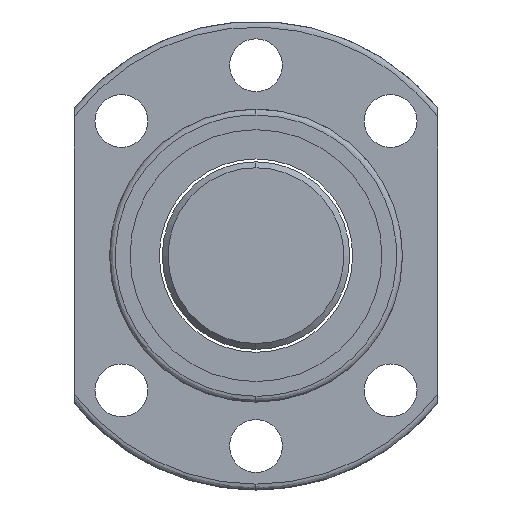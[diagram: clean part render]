
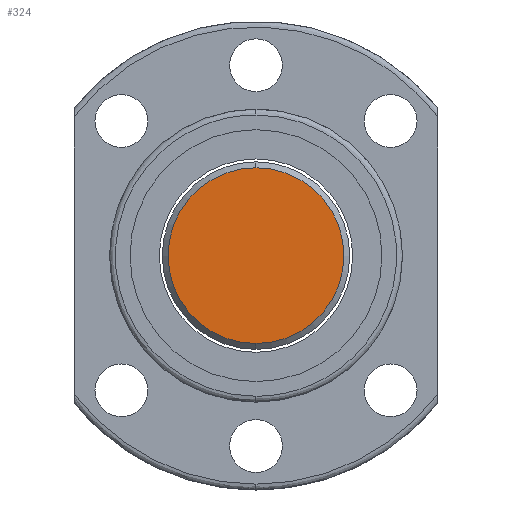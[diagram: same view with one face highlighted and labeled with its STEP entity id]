
A CAD part, left-side view. The second image highlights one B-rep face of the part: STEP entity #324.
In plain terms, the highlighted planar face has unit normal (-1, 0, 0).
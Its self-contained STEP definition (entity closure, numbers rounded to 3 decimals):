
#311 = EDGE_CURVE ( 'NONE', #357, #388, #1909, .T. ) ;
#322 = ORIENTED_EDGE ( 'NONE', *, *, #343, .F. ) ;
#323 = ORIENTED_EDGE ( 'NONE', *, *, #311, .F. ) ;
#324 = ADVANCED_FACE ( 'NONE', ( #1713 ), #1715, .F. ) ;
#343 = EDGE_CURVE ( 'NONE', #388, #357, #1903, .T. ) ;
#345 = EDGE_LOOP ( 'NONE', ( #322, #323 ) ) ;
#357 = VERTEX_POINT ( 'NONE', #1836 ) ;
#388 = VERTEX_POINT ( 'NONE', #1952 ) ;
#1642 = AXIS2_PLACEMENT_3D ( 'NONE', #1652, #1651, #1649 ) ;
#1649 = DIRECTION ( 'NONE',  ( 0., 0., -1. ) ) ;
#1651 = DIRECTION ( 'NONE',  ( 1., 0., 0. ) ) ;
#1652 = CARTESIAN_POINT ( 'NONE',  ( -192., 8., 0. ) ) ;
#1713 = FACE_OUTER_BOUND ( 'NONE', #345, .T. ) ;
#1715 = PLANE ( 'NONE',  #1642 ) ;
#1835 = AXIS2_PLACEMENT_3D ( 'NONE', #1848, #1857, #1866 ) ;
#1836 = CARTESIAN_POINT ( 'NONE',  ( -192., 0., 15. ) ) ;
#1848 = CARTESIAN_POINT ( 'NONE',  ( -192., 0., 0. ) ) ;
#1857 = DIRECTION ( 'NONE',  ( 1., 0., 0. ) ) ;
#1866 = DIRECTION ( 'NONE',  ( 0., 0., -1. ) ) ;
#1903 = CIRCLE ( 'NONE', #1835, 15. ) ;
#1909 = CIRCLE ( 'NONE', #1949, 15. ) ;
#1929 = DIRECTION ( 'NONE',  ( 0., 0., -1. ) ) ;
#1936 = DIRECTION ( 'NONE',  ( 1., 0., 0. ) ) ;
#1937 = CARTESIAN_POINT ( 'NONE',  ( -192., 0., 0. ) ) ;
#1949 = AXIS2_PLACEMENT_3D ( 'NONE', #1937, #1936, #1929 ) ;
#1952 = CARTESIAN_POINT ( 'NONE',  ( -192., 0., -15. ) ) ;
